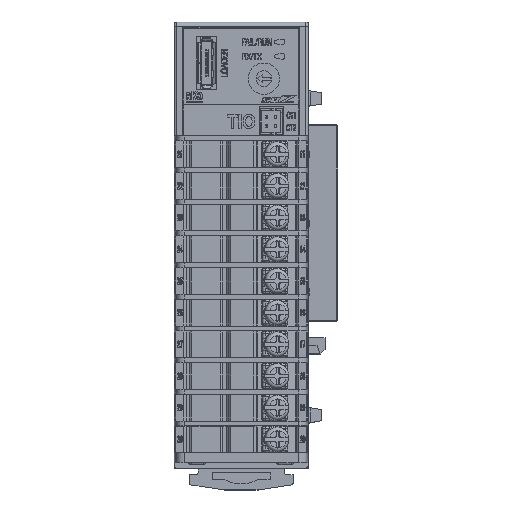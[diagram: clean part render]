
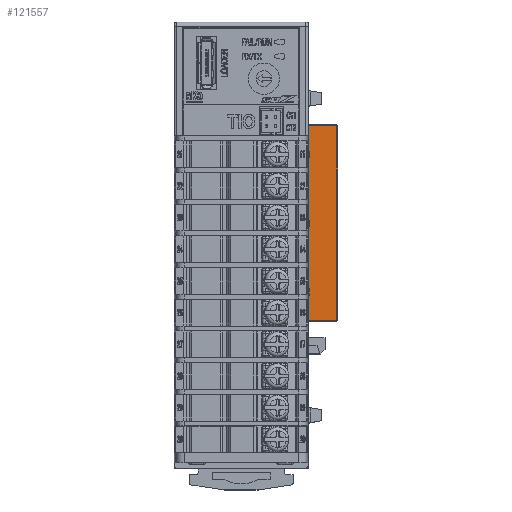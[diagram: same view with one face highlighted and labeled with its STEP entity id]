
A CAD part, top view. The second image highlights one B-rep face of the part: STEP entity #121557.
In plain terms, the highlighted planar face has unit normal (0, 0, 1).
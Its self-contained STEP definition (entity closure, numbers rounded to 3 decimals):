
#1623 = CARTESIAN_POINT ( 'NONE',  ( 15.35, -11.1, 12.8 ) ) ;
#3525 = VERTEX_POINT ( 'NONE', #113862 ) ;
#4000 = CARTESIAN_POINT ( 'NONE',  ( 15.35, -11.1, 12.8 ) ) ;
#4534 = CARTESIAN_POINT ( 'NONE',  ( 15.35, 4.3, 12.8 ) ) ;
#8941 = LINE ( 'NONE', #61804, #186309 ) ;
#9491 = DIRECTION ( 'NONE',  ( -1., 0., 0. ) ) ;
#9939 = CARTESIAN_POINT ( 'NONE',  ( 13.35, 27.05, 12.8 ) ) ;
#10677 = ORIENTED_EDGE ( 'NONE', *, *, #40561, .T. ) ;
#12876 = CARTESIAN_POINT ( 'NONE',  ( 21.65, -16.85, 12.8 ) ) ;
#13939 = VERTEX_POINT ( 'NONE', #125227 ) ;
#14075 = EDGE_CURVE ( 'NONE', #36862, #13939, #185090, .T. ) ;
#15814 = VECTOR ( 'NONE', #43683, 1000. ) ;
#16065 = LINE ( 'NONE', #12876, #144190 ) ;
#16165 = VECTOR ( 'NONE', #141492, 1000. ) ;
#16491 = EDGE_CURVE ( 'NONE', #94910, #75433, #85443, .T. ) ;
#17548 = VECTOR ( 'NONE', #46532, 1000. ) ;
#17998 = VECTOR ( 'NONE', #175371, 1000. ) ;
#18460 = VERTEX_POINT ( 'NONE', #30844 ) ;
#18464 = CARTESIAN_POINT ( 'NONE',  ( 15.35, 4.3, 12.8 ) ) ;
#18784 = ORIENTED_EDGE ( 'NONE', *, *, #23428, .F. ) ;
#19657 = EDGE_CURVE ( 'NONE', #36862, #58576, #53218, .T. ) ;
#21085 = ORIENTED_EDGE ( 'NONE', *, *, #130330, .T. ) ;
#23428 = EDGE_CURVE ( 'NONE', #184377, #3525, #62749, .T. ) ;
#23440 = EDGE_CURVE ( 'NONE', #47341, #184377, #8941, .T. ) ;
#24223 = EDGE_CURVE ( 'NONE', #58576, #147998, #152319, .T. ) ;
#25190 = CARTESIAN_POINT ( 'NONE',  ( 21.45, 26.85, 12.8 ) ) ;
#27915 = EDGE_LOOP ( 'NONE', ( #102074, #142293, #175995, #31181, #134332, #125611, #173302, #179667, #150735, #173093, #18784, #96372, #10677, #96612, #64571, #21085 ) ) ;
#29645 = LINE ( 'NONE', #84282, #16165 ) ;
#30844 = CARTESIAN_POINT ( 'NONE',  ( 15.35, 19.7, 12.8 ) ) ;
#31181 = ORIENTED_EDGE ( 'NONE', *, *, #64687, .F. ) ;
#34140 = VECTOR ( 'NONE', #96131, 1000. ) ;
#36862 = VERTEX_POINT ( 'NONE', #150610 ) ;
#39252 = EDGE_CURVE ( 'NONE', #59607, #131762, #110515, .T. ) ;
#40561 = EDGE_CURVE ( 'NONE', #47341, #174645, #121328, .T. ) ;
#40860 = DIRECTION ( 'NONE',  ( 0., -1., 0. ) ) ;
#42943 = EDGE_CURVE ( 'NONE', #128596, #147998, #64615, .T. ) ;
#43638 = DIRECTION ( 'NONE',  ( 0., 1., 0. ) ) ;
#43683 = DIRECTION ( 'NONE',  ( 0., -1., 0. ) ) ;
#46532 = DIRECTION ( 'NONE',  ( 0., 1., 0. ) ) ;
#47263 = DIRECTION ( 'NONE',  ( 0., -1., 0. ) ) ;
#47341 = VERTEX_POINT ( 'NONE', #56675 ) ;
#47475 = CARTESIAN_POINT ( 'NONE',  ( 13.35, 21.1, 12.8 ) ) ;
#47960 = FACE_OUTER_BOUND ( 'NONE', #27915, .T. ) ;
#49293 = VECTOR ( 'NONE', #167920, 1000. ) ;
#51448 = CARTESIAN_POINT ( 'NONE',  ( 21.65, 26.85, 12.8 ) ) ;
#53218 = LINE ( 'NONE', #18464, #59917 ) ;
#53815 = CARTESIAN_POINT ( 'NONE',  ( 15.35, 5.7, 12.8 ) ) ;
#53834 = CARTESIAN_POINT ( 'NONE',  ( 21.65, -17.05, 12.8 ) ) ;
#55538 = CARTESIAN_POINT ( 'NONE',  ( 13.35, 19.7, 12.8 ) ) ;
#56675 = CARTESIAN_POINT ( 'NONE',  ( 13.35, -11.1, 12.8 ) ) ;
#57274 = VECTOR ( 'NONE', #105935, 1000. ) ;
#58576 = VERTEX_POINT ( 'NONE', #64910 ) ;
#59607 = VERTEX_POINT ( 'NONE', #94689 ) ;
#59917 = VECTOR ( 'NONE', #89977, 1000. ) ;
#61576 = CARTESIAN_POINT ( 'NONE',  ( 13.35, 5.7, 12.8 ) ) ;
#61804 = CARTESIAN_POINT ( 'NONE',  ( 13.35, -11.1, 12.8 ) ) ;
#62749 = LINE ( 'NONE', #1623, #100874 ) ;
#64571 = ORIENTED_EDGE ( 'NONE', *, *, #39252, .T. ) ;
#64615 = LINE ( 'NONE', #53815, #183713 ) ;
#64687 = EDGE_CURVE ( 'NONE', #78444, #18460, #29645, .T. ) ;
#64910 = CARTESIAN_POINT ( 'NONE',  ( 15.35, 4.3, 12.8 ) ) ;
#65983 = VECTOR ( 'NONE', #47263, 1000. ) ;
#68065 = DIRECTION ( 'NONE',  ( 1., 0., 0. ) ) ;
#68257 = CARTESIAN_POINT ( 'NONE',  ( 15.35, 5.7, 12.8 ) ) ;
#75433 = VERTEX_POINT ( 'NONE', #47475 ) ;
#78444 = VERTEX_POINT ( 'NONE', #55538 ) ;
#79805 = LINE ( 'NONE', #151172, #57274 ) ;
#84282 = CARTESIAN_POINT ( 'NONE',  ( 13.35, 19.7, 12.8 ) ) ;
#85443 = LINE ( 'NONE', #126900, #132720 ) ;
#89020 = CARTESIAN_POINT ( 'NONE',  ( 15.35, 21.1, 12.8 ) ) ;
#89977 = DIRECTION ( 'NONE',  ( 1., 0., 0. ) ) ;
#90376 = EDGE_CURVE ( 'NONE', #174645, #59607, #16065, .T. ) ;
#94689 = CARTESIAN_POINT ( 'NONE',  ( 21.45, -16.85, 12.8 ) ) ;
#94910 = VERTEX_POINT ( 'NONE', #118115 ) ;
#96131 = DIRECTION ( 'NONE',  ( 0., 1., 0. ) ) ;
#96367 = CARTESIAN_POINT ( 'NONE',  ( 13.35, 27.05, 12.8 ) ) ;
#96372 = ORIENTED_EDGE ( 'NONE', *, *, #23440, .F. ) ;
#96612 = ORIENTED_EDGE ( 'NONE', *, *, #90376, .T. ) ;
#98438 = LINE ( 'NONE', #51448, #177233 ) ;
#100874 = VECTOR ( 'NONE', #43638, 1000. ) ;
#102074 = ORIENTED_EDGE ( 'NONE', *, *, #16491, .T. ) ;
#105935 = DIRECTION ( 'NONE',  ( 1., 0., 0. ) ) ;
#109788 = DIRECTION ( 'NONE',  ( 0., 1., 0. ) ) ;
#110515 = LINE ( 'NONE', #139565, #34140 ) ;
#113862 = CARTESIAN_POINT ( 'NONE',  ( 15.35, -9.7, 12.8 ) ) ;
#115174 = CARTESIAN_POINT ( 'NONE',  ( 13.35, -9.7, 12.8 ) ) ;
#115787 = DIRECTION ( 'NONE',  ( 1., 0., 0. ) ) ;
#118115 = CARTESIAN_POINT ( 'NONE',  ( 13.35, 26.85, 12.8 ) ) ;
#118328 = DIRECTION ( 'NONE',  ( 1., 0., 0. ) ) ;
#119256 = EDGE_CURVE ( 'NONE', #13939, #3525, #149983, .T. ) ;
#121172 = LINE ( 'NONE', #96367, #49293 ) ;
#121328 = LINE ( 'NONE', #9939, #15814 ) ;
#121557 = ADVANCED_FACE ( 'NONE', ( #47960 ), #138723, .F. ) ;
#125227 = CARTESIAN_POINT ( 'NONE',  ( 13.35, -9.7, 12.8 ) ) ;
#125611 = ORIENTED_EDGE ( 'NONE', *, *, #42943, .T. ) ;
#126900 = CARTESIAN_POINT ( 'NONE',  ( 13.35, 27.05, 12.8 ) ) ;
#128596 = VERTEX_POINT ( 'NONE', #61576 ) ;
#130330 = EDGE_CURVE ( 'NONE', #131762, #94910, #98438, .T. ) ;
#131762 = VERTEX_POINT ( 'NONE', #25190 ) ;
#132720 = VECTOR ( 'NONE', #40860, 1000. ) ;
#134332 = ORIENTED_EDGE ( 'NONE', *, *, #181902, .T. ) ;
#138102 = DIRECTION ( 'NONE',  ( 0., 0., -1. ) ) ;
#138723 = PLANE ( 'NONE',  #146941 ) ;
#139565 = CARTESIAN_POINT ( 'NONE',  ( 21.45, 27.05, 12.8 ) ) ;
#140663 = CARTESIAN_POINT ( 'NONE',  ( 13.35, -16.85, 12.8 ) ) ;
#141492 = DIRECTION ( 'NONE',  ( 1., 0., 0. ) ) ;
#142293 = ORIENTED_EDGE ( 'NONE', *, *, #174969, .T. ) ;
#144190 = VECTOR ( 'NONE', #68065, 1000. ) ;
#145328 = CARTESIAN_POINT ( 'NONE',  ( 13.35, 27.05, 12.8 ) ) ;
#146592 = CARTESIAN_POINT ( 'NONE',  ( 15.35, 21.1, 12.8 ) ) ;
#146941 = AXIS2_PLACEMENT_3D ( 'NONE', #53834, #138102, #109788 ) ;
#147998 = VERTEX_POINT ( 'NONE', #68257 ) ;
#149983 = LINE ( 'NONE', #115174, #167842 ) ;
#150610 = CARTESIAN_POINT ( 'NONE',  ( 13.35, 4.3, 12.8 ) ) ;
#150735 = ORIENTED_EDGE ( 'NONE', *, *, #14075, .T. ) ;
#151172 = CARTESIAN_POINT ( 'NONE',  ( 13.35, 21.1, 12.8 ) ) ;
#152319 = LINE ( 'NONE', #4534, #17548 ) ;
#157279 = VERTEX_POINT ( 'NONE', #89020 ) ;
#167612 = EDGE_CURVE ( 'NONE', #157279, #18460, #179788, .T. ) ;
#167842 = VECTOR ( 'NONE', #115787, 1000. ) ;
#167920 = DIRECTION ( 'NONE',  ( 0., -1., 0. ) ) ;
#168689 = DIRECTION ( 'NONE',  ( 1., 0., 0. ) ) ;
#173093 = ORIENTED_EDGE ( 'NONE', *, *, #119256, .T. ) ;
#173302 = ORIENTED_EDGE ( 'NONE', *, *, #24223, .F. ) ;
#174645 = VERTEX_POINT ( 'NONE', #140663 ) ;
#174969 = EDGE_CURVE ( 'NONE', #75433, #157279, #79805, .T. ) ;
#175371 = DIRECTION ( 'NONE',  ( 0., -1., 0. ) ) ;
#175995 = ORIENTED_EDGE ( 'NONE', *, *, #167612, .T. ) ;
#177233 = VECTOR ( 'NONE', #9491, 1000. ) ;
#179667 = ORIENTED_EDGE ( 'NONE', *, *, #19657, .F. ) ;
#179788 = LINE ( 'NONE', #146592, #17998 ) ;
#181902 = EDGE_CURVE ( 'NONE', #78444, #128596, #121172, .T. ) ;
#183713 = VECTOR ( 'NONE', #168689, 1000. ) ;
#184377 = VERTEX_POINT ( 'NONE', #4000 ) ;
#185090 = LINE ( 'NONE', #145328, #65983 ) ;
#186309 = VECTOR ( 'NONE', #118328, 1000. ) ;
